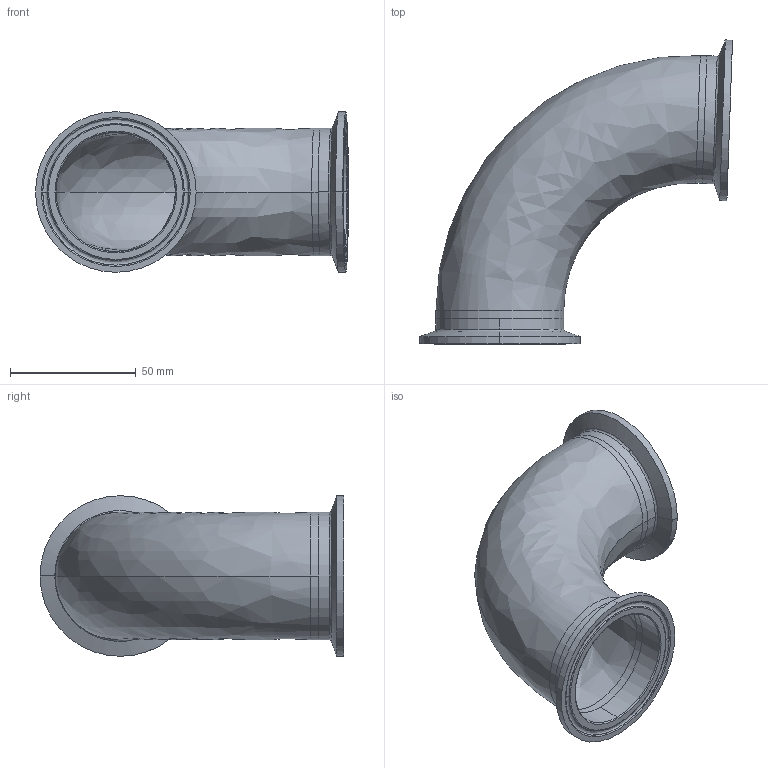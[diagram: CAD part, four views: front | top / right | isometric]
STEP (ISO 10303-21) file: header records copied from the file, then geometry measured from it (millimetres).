
FILE_DESCRIPTION (( 'STEP AP214' ), '1' );
FILE_NAME ('TEG2C926L2.0-...STEP', '2016-05-22T11:36:34', ( 'eran' ), ( '' ), 'SwSTEP 2.0', 'SolidWorks 2016', '' );
FILE_SCHEMA (( 'AUTOMOTIVE_DESIGN' ));
Length unit declared in the file: millimetre
Products named in the file (1): TEG2C926L2.0-..
Bounding box: 124.51 x 120.93 x 63.91 mm (x, y, z)
Volume: 46720.4 mm3; surface area: 51714.2 mm2
Topology: 3 solids, 3 shells, 64 faces, 156 edges, 100 vertices
Faces by surface type: bspline 24, cylinder 20, cone 12, plane 8
Entity records: 3255 total; most frequent: CARTESIAN_POINT 1699, DIRECTION 338, ORIENTED_EDGE 312, EDGE_CURVE 156, AXIS2_PLACEMENT_3D 153, CIRCLE 112, VERTEX_POINT 100, EDGE_LOOP 72
